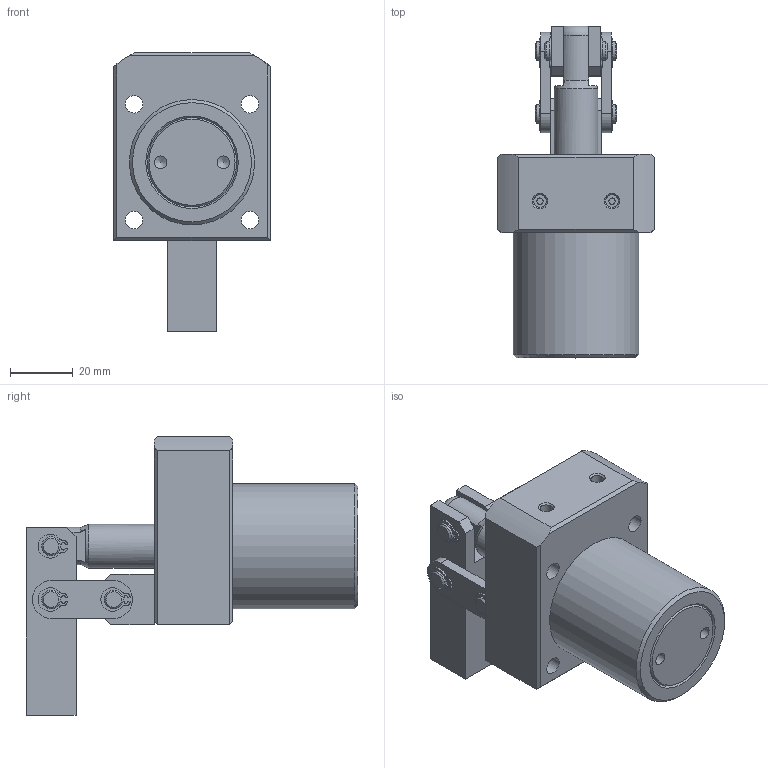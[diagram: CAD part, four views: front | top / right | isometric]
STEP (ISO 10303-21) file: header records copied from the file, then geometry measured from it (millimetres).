
FILE_DESCRIPTION(/* description */ (''),/* implementation_level */ '2;1');
FILE_NAME(/* name */ 'KGG-SG25.stp',/* time_stamp */ '2016-07-19T14:24:29+08:00',/* author */ (''),/* organization */ (''),/* preprocessor_version */ 'ST-DEVELOPER v14',/* originating_system */ 'SIEMENS PLM Software NX 8.0',/* authorisation */ '');
FILE_SCHEMA (('CONFIG_CONTROL_DESIGN'));
Length unit declared in the file: millimetre
Products named in the file (1): KGG-SG25_stp
Bounding box: 50 x 105.95 x 89 mm (x, y, z)
Volume: 145663.7 mm3; surface area: 28942.1 mm2
Topology: 14 solids, 14 shells, 218 faces, 504 edges, 334 vertices
Faces by surface type: plane 120, cylinder 82, cone 15, torus 1
Full cylindrical faces by diameter (mm): 2 x2, 4 x4, 5.6 x4, 6 x8, 9 x4, 14 x2, 15.6 x1, 40 x1
Entity records: 5966 total; most frequent: DIRECTION 1066, CARTESIAN_POINT 1014, ORIENTED_EDGE 894, EDGE_CURVE 447, AXIS2_PLACEMENT_3D 407, VERTEX_POINT 319, EDGE_LOOP 286, LINE 252
